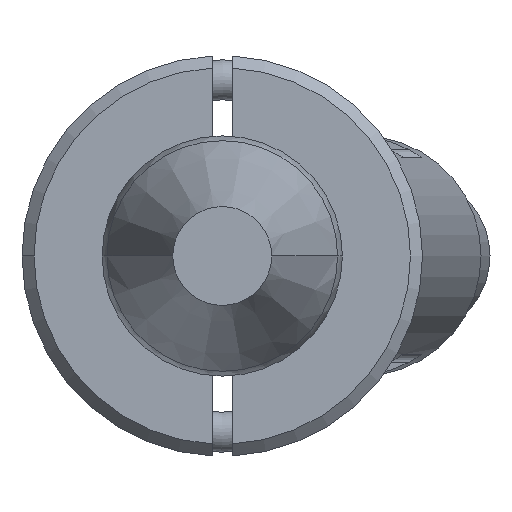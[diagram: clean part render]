
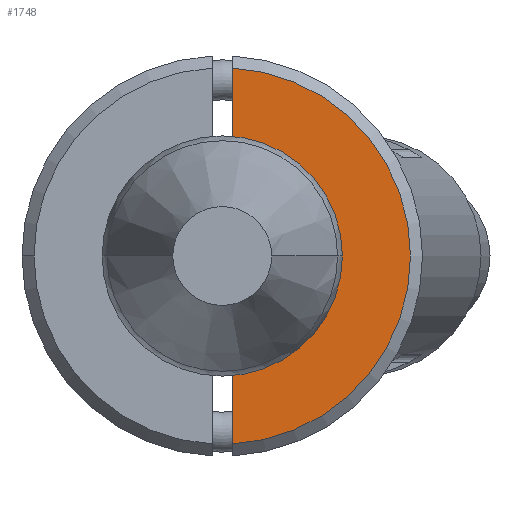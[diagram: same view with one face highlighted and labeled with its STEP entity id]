
A CAD part, front view. The second image highlights one B-rep face of the part: STEP entity #1748.
In plain terms, the highlighted planar face has unit normal (0, -1, 0).
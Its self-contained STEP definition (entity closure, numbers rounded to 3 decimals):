
#66 = VERTEX_POINT ( 'NONE', #3704 ) ;
#89 = CARTESIAN_POINT ( 'NONE',  ( 2.437, -6., -0.25 ) ) ;
#92 = CARTESIAN_POINT ( 'NONE',  ( -5., -6., -0.25 ) ) ;
#258 = AXIS2_PLACEMENT_3D ( 'NONE', #2964, #887, #1791 ) ;
#268 = CARTESIAN_POINT ( 'NONE',  ( 0., -6., 0. ) ) ;
#294 = DIRECTION ( 'NONE',  ( 0., 0., -1. ) ) ;
#361 = DIRECTION ( 'NONE',  ( 0., 0., -1. ) ) ;
#408 = CIRCLE ( 'NONE', #3091, 2.45 ) ;
#745 = ORIENTED_EDGE ( 'NONE', *, *, #951, .T. ) ;
#887 = DIRECTION ( 'NONE',  ( 0., 1., 0. ) ) ;
#894 = AXIS2_PLACEMENT_3D ( 'NONE', #268, #3797, #294 ) ;
#929 = VERTEX_POINT ( 'NONE', #3372 ) ;
#951 = EDGE_CURVE ( 'NONE', #66, #2163, #408, .T. ) ;
#970 = VECTOR ( 'NONE', #2741, 1000. ) ;
#1019 = LINE ( 'NONE', #92, #970 ) ;
#1214 = LINE ( 'NONE', #2122, #3016 ) ;
#1279 = EDGE_LOOP ( 'NONE', ( #1493, #1557, #2390, #2649, #745 ) ) ;
#1307 = EDGE_CURVE ( 'NONE', #929, #2163, #1214, .T. ) ;
#1493 = ORIENTED_EDGE ( 'NONE', *, *, #1307, .F. ) ;
#1557 = ORIENTED_EDGE ( 'NONE', *, *, #1593, .T. ) ;
#1593 = EDGE_CURVE ( 'NONE', #929, #2083, #3455, .T. ) ;
#1748 = ADVANCED_FACE ( 'NONE', ( #2164 ), #2737, .T. ) ;
#1791 = DIRECTION ( 'NONE',  ( 0., 0., -1. ) ) ;
#2083 = VERTEX_POINT ( 'NONE', #2284 ) ;
#2122 = CARTESIAN_POINT ( 'NONE',  ( -5., -6., -0.25 ) ) ;
#2163 = VERTEX_POINT ( 'NONE', #2859 ) ;
#2164 = FACE_OUTER_BOUND ( 'NONE', #1279, .T. ) ;
#2191 = DIRECTION ( 'NONE',  ( 0., 1., 0. ) ) ;
#2284 = CARTESIAN_POINT ( 'NONE',  ( 4.693, -6., -0.25 ) ) ;
#2390 = ORIENTED_EDGE ( 'NONE', *, *, #2893, .F. ) ;
#2456 = AXIS2_PLACEMENT_3D ( 'NONE', #3679, #3069, #361 ) ;
#2632 = CIRCLE ( 'NONE', #258, 2.45 ) ;
#2649 = ORIENTED_EDGE ( 'NONE', *, *, #3165, .T. ) ;
#2737 = PLANE ( 'NONE',  #2456 ) ;
#2741 = DIRECTION ( 'NONE',  ( 1., 0., 0. ) ) ;
#2859 = CARTESIAN_POINT ( 'NONE',  ( -2.437, -6., -0.25 ) ) ;
#2893 = EDGE_CURVE ( 'NONE', #3637, #2083, #1019, .T. ) ;
#2964 = CARTESIAN_POINT ( 'NONE',  ( 0., -6., 0. ) ) ;
#3016 = VECTOR ( 'NONE', #3298, 1000. ) ;
#3046 = DIRECTION ( 'NONE',  ( 0., 0., -1. ) ) ;
#3069 = DIRECTION ( 'NONE',  ( 0., -1., 0. ) ) ;
#3091 = AXIS2_PLACEMENT_3D ( 'NONE', #3354, #2191, #3046 ) ;
#3165 = EDGE_CURVE ( 'NONE', #3637, #66, #2632, .T. ) ;
#3298 = DIRECTION ( 'NONE',  ( 1., 0., 0. ) ) ;
#3354 = CARTESIAN_POINT ( 'NONE',  ( 0., -6., 0. ) ) ;
#3372 = CARTESIAN_POINT ( 'NONE',  ( -4.693, -6., -0.25 ) ) ;
#3455 = CIRCLE ( 'NONE', #894, 4.7 ) ;
#3637 = VERTEX_POINT ( 'NONE', #89 ) ;
#3679 = CARTESIAN_POINT ( 'NONE',  ( -5., -6., 0. ) ) ;
#3704 = CARTESIAN_POINT ( 'NONE',  ( 0., -6., -2.45 ) ) ;
#3797 = DIRECTION ( 'NONE',  ( 0., -1., 0. ) ) ;
